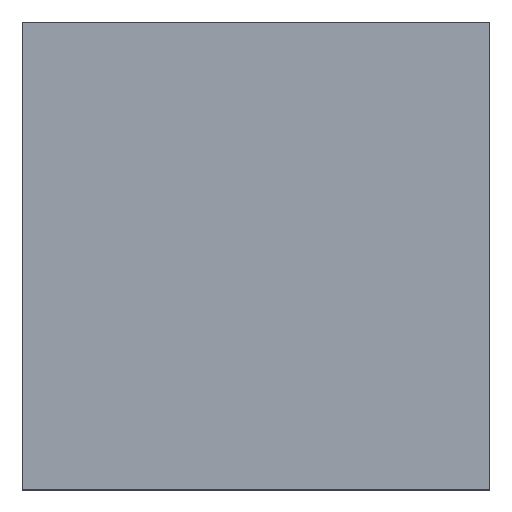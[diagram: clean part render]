
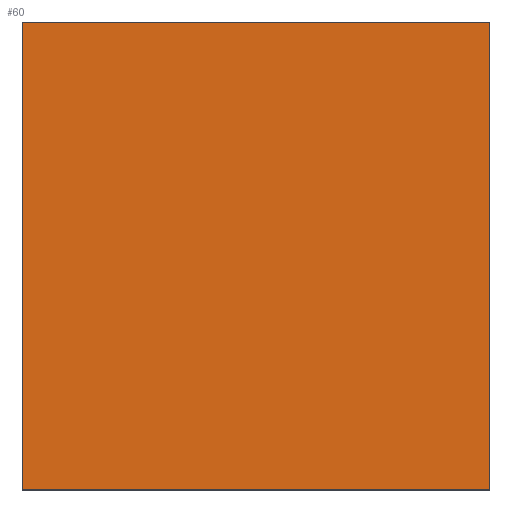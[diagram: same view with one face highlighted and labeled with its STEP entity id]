
A CAD part, top view. The second image highlights one B-rep face of the part: STEP entity #60.
In plain terms, the highlighted planar face has unit normal (0, 0, 1).
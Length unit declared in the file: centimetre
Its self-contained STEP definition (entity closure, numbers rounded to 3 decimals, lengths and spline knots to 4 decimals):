
#19 = LINE ( 'NONE', #101, #410 ) ;
#29 = DIRECTION ( 'NONE',  ( 0., 0., 1. ) ) ;
#37 = CARTESIAN_POINT ( 'NONE',  ( 0., 1000., 1000. ) ) ;
#60 = ADVANCED_FACE ( 'NONE', ( #199 ), #430, .T. ) ;
#62 = CARTESIAN_POINT ( 'NONE',  ( 0., 1000., 1000. ) ) ;
#73 = VERTEX_POINT ( 'NONE', #189 ) ;
#79 = ORIENTED_EDGE ( 'NONE', *, *, #334, .T. ) ;
#86 = EDGE_LOOP ( 'NONE', ( #447, #121, #79, #364 ) ) ;
#92 = VECTOR ( 'NONE', #433, 100. ) ;
#101 = CARTESIAN_POINT ( 'NONE',  ( 0., 0., 1000. ) ) ;
#121 = ORIENTED_EDGE ( 'NONE', *, *, #464, .T. ) ;
#134 = EDGE_CURVE ( 'NONE', #434, #422, #151, .T. ) ;
#151 = LINE ( 'NONE', #37, #92 ) ;
#163 = LINE ( 'NONE', #319, #417 ) ;
#189 = CARTESIAN_POINT ( 'NONE',  ( 1000., 1000., 1000. ) ) ;
#199 = FACE_OUTER_BOUND ( 'NONE', #86, .T. ) ;
#215 = VERTEX_POINT ( 'NONE', #406 ) ;
#228 = DIRECTION ( 'NONE',  ( -1., 0., 0. ) ) ;
#231 = LINE ( 'NONE', #306, #461 ) ;
#259 = CARTESIAN_POINT ( 'NONE',  ( 0., 0., 1000. ) ) ;
#306 = CARTESIAN_POINT ( 'NONE',  ( 0., 1000., 1000. ) ) ;
#315 = DIRECTION ( 'NONE',  ( 1., 0., 0. ) ) ;
#319 = CARTESIAN_POINT ( 'NONE',  ( 1000., 1000., 1000. ) ) ;
#334 = EDGE_CURVE ( 'NONE', #215, #73, #163, .T. ) ;
#359 = DIRECTION ( 'NONE',  ( 0., 1., 0. ) ) ;
#361 = AXIS2_PLACEMENT_3D ( 'NONE', #436, #29, #315 ) ;
#362 = EDGE_CURVE ( 'NONE', #73, #434, #231, .T. ) ;
#364 = ORIENTED_EDGE ( 'NONE', *, *, #362, .T. ) ;
#377 = DIRECTION ( 'NONE',  ( 1., 0., 0. ) ) ;
#406 = CARTESIAN_POINT ( 'NONE',  ( 1000., 0., 1000. ) ) ;
#410 = VECTOR ( 'NONE', #377, 100. ) ;
#417 = VECTOR ( 'NONE', #359, 100. ) ;
#422 = VERTEX_POINT ( 'NONE', #259 ) ;
#430 = PLANE ( 'NONE',  #361 ) ;
#433 = DIRECTION ( 'NONE',  ( 0., -1., 0. ) ) ;
#434 = VERTEX_POINT ( 'NONE', #62 ) ;
#436 = CARTESIAN_POINT ( 'NONE',  ( 0., 0., 1000. ) ) ;
#447 = ORIENTED_EDGE ( 'NONE', *, *, #134, .T. ) ;
#461 = VECTOR ( 'NONE', #228, 100. ) ;
#464 = EDGE_CURVE ( 'NONE', #422, #215, #19, .T. ) ;
